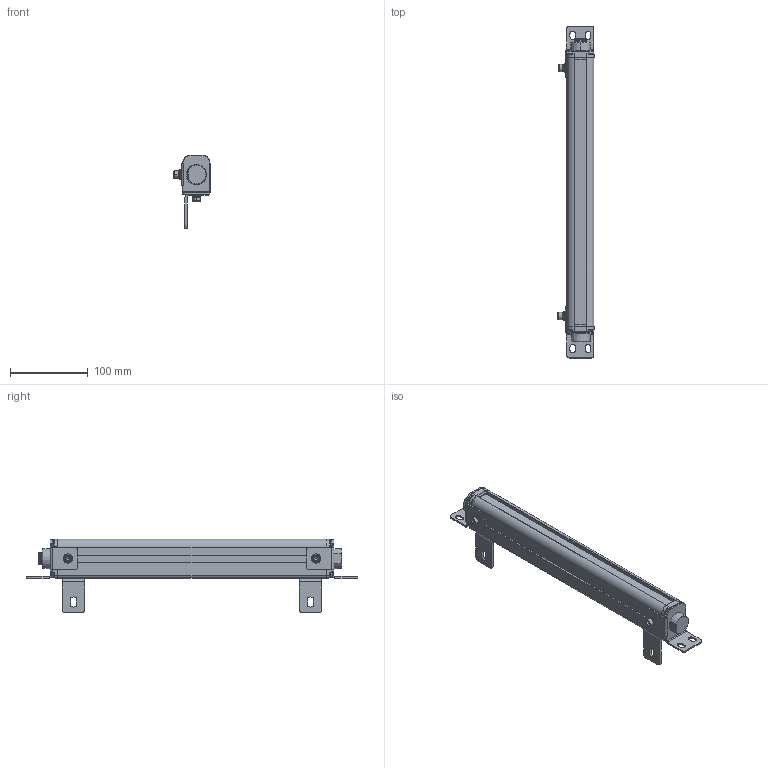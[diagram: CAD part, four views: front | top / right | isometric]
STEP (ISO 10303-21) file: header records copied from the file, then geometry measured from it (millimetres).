
FILE_DESCRIPTION((''),'2;1');
FILE_NAME('ESN--000_ASM','2021-08-10T21:13:29',('18720616900'),(''),'CREO PARAMETRIC BY PTC INC, 2019010','CREO PARAMETRIC BY PTC INC, 2019010','');
FILE_SCHEMA(('CONFIG_CONTROL_DESIGN'));
Products named in the file (22): 00; 000; _0002; _0003; _0004; 5000; 5--0001; ESN_50001_ASM; ST-3-120001; L10001; M6-8--0001; M6-1--00; M6-1-00; M6-80001_ASM; L1--0001_ASM; H1--000; H1--0003_ASM; H1--0001_ASM; ESN--000_ASM
Assembly tree (35 placements, depth 4):
  ESN--000_ASM
    00
    000
    _0002
    _0003
    _0004
    000
    ESN_50001_ASM
      5000
      5--0001  x5
    ST-3-120001  x8
    L1--0001_ASM  x2
      L10001
      M6-80001_ASM
        M6-8--0001
        M6-1--00
        M6-1-00
        00
    H1--0003_ASM
      H1--000
      M6-80001_ASM
        M6-8--0001
        M6-1--00
        M6-1-00
        00
    H1--0001_ASM
      H1--000
      M6-80001_ASM
        M6-8--0001
        M6-1--00
        M6-1-00
        00
Bounding box: 46.5 x 427 x 94.95 mm (x, y, z)
Volume: 569529.7 mm3; surface area: 148608 mm2
Topology: 40 solids, 40 shells, 1785 faces, 4708 edges, 3012 vertices
Faces by surface type: plane 583, cylinder 416, bspline 362, cone 291, torus 107, sphere 26
Entity records: 48222 total; most frequent: CARTESIAN_POINT 24957, ORIENTED_EDGE 5136, DIRECTION 4189, EDGE_CURVE 2568, VERTEX_POINT 1669, AXIS2_PLACEMENT_3D 1488, VECTOR 1213, LINE 1213
